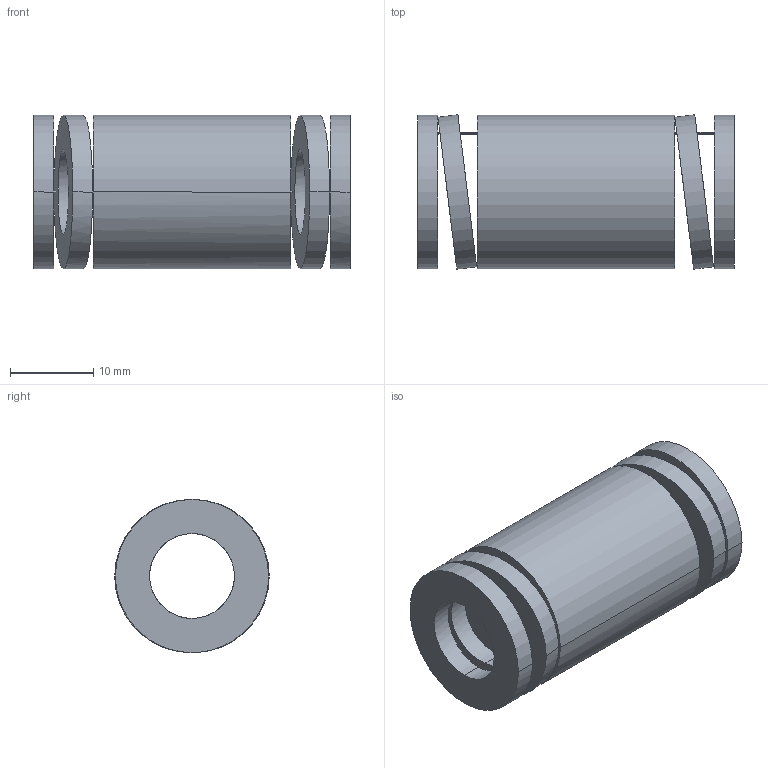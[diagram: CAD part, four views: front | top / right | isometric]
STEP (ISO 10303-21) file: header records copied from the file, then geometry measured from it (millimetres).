
FILE_DESCRIPTION(('CATIA V5 STEP Exchange'),'2;1');
FILE_NAME('C:\Users\Utente\Desktop\IO LAVORO\3D X SITO CF\X SITO\3D files 392B\392-B20-038.stp','2021-08-12T13:58:33+00:00',('none'),('none'),'CATIA Version 5 Release 20 GA (IN-10)','CATIA V5 STEP AP203','none');
FILE_SCHEMA(('CONFIG_CONTROL_DESIGN'));
Length unit declared in the file: millimetre
Products named in the file (1): 392-B20-038
Bounding box: 38 x 18.56 x 18.4 mm (x, y, z)
Volume: 6133.4 mm3; surface area: 4836.5 mm2
Topology: 1 solids, 1 shells, 38 faces, 92 edges, 64 vertices
Faces by surface type: cylinder 28, plane 10
Entity records: 1590 total; most frequent: CARTESIAN_POINT 707, ORIENTED_EDGE 184, DIRECTION 126, EDGE_CURVE 92, VERTEX_POINT 64, AXIS2_PLACEMENT_3D 61, EDGE_LOOP 56, B_SPLINE_CURVE_WITH_KNOTS 42
